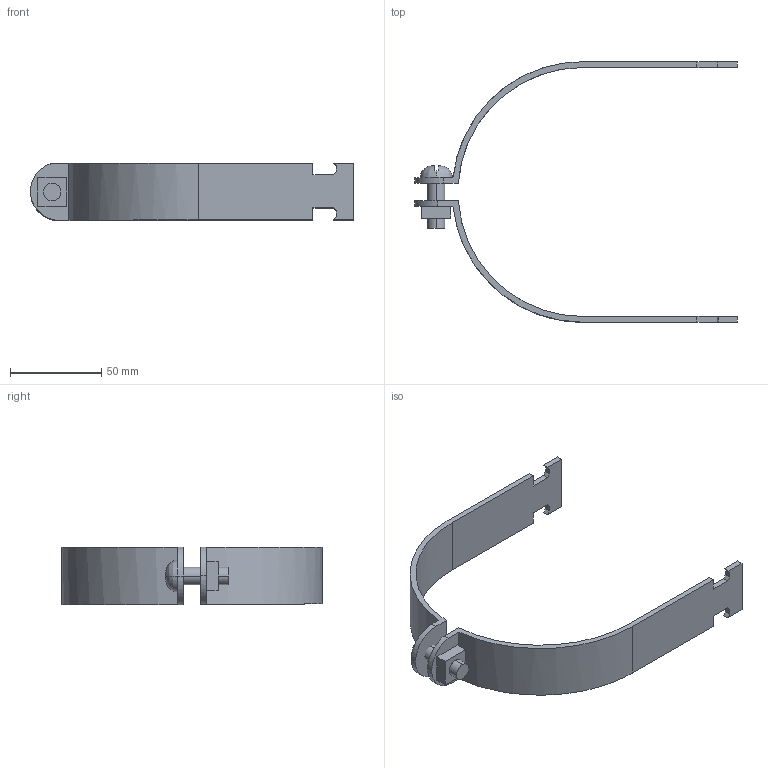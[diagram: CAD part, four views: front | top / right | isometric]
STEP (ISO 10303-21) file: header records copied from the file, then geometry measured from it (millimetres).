
FILE_DESCRIPTION(('TurboCAD Mac Pro'),'Build 980');
FILE_NAME('P2065.stp',' ',(''),(''),'ACIS Interop','IMSI','TurboCAD Mac Pro BY IMSI, INCORPORATED');
FILE_SCHEMA(('automotive_design'));
Length unit declared in the file: inch
Products named in the file (5): 1; 2; 3; 4; 5
Bounding box: 177.01 x 142.76 x 31.75 mm (x, y, z)
Volume: 44604.6 mm3; surface area: 31159 mm2
Topology: 4 solids, 4 shells, 71 faces, 186 edges, 124 vertices
Faces by surface type: plane 51, bspline 20
Entity records: 3560 total; most frequent: CARTESIAN_POINT 1070, ORIENTED_EDGE 372, DIRECTION 262, EDGE_CURVE 186, LINE 142, VECTOR 142, VERTEX_POINT 124, STYLED_ITEM 96
